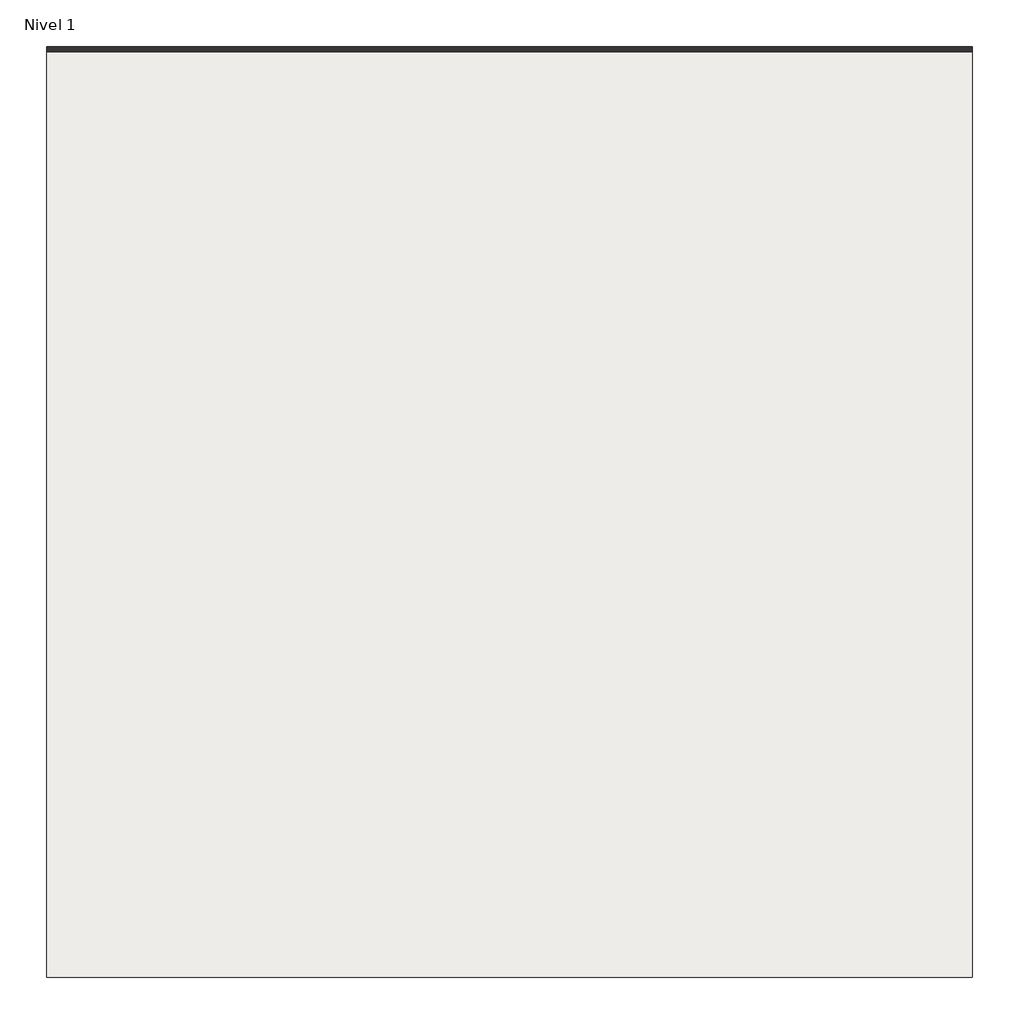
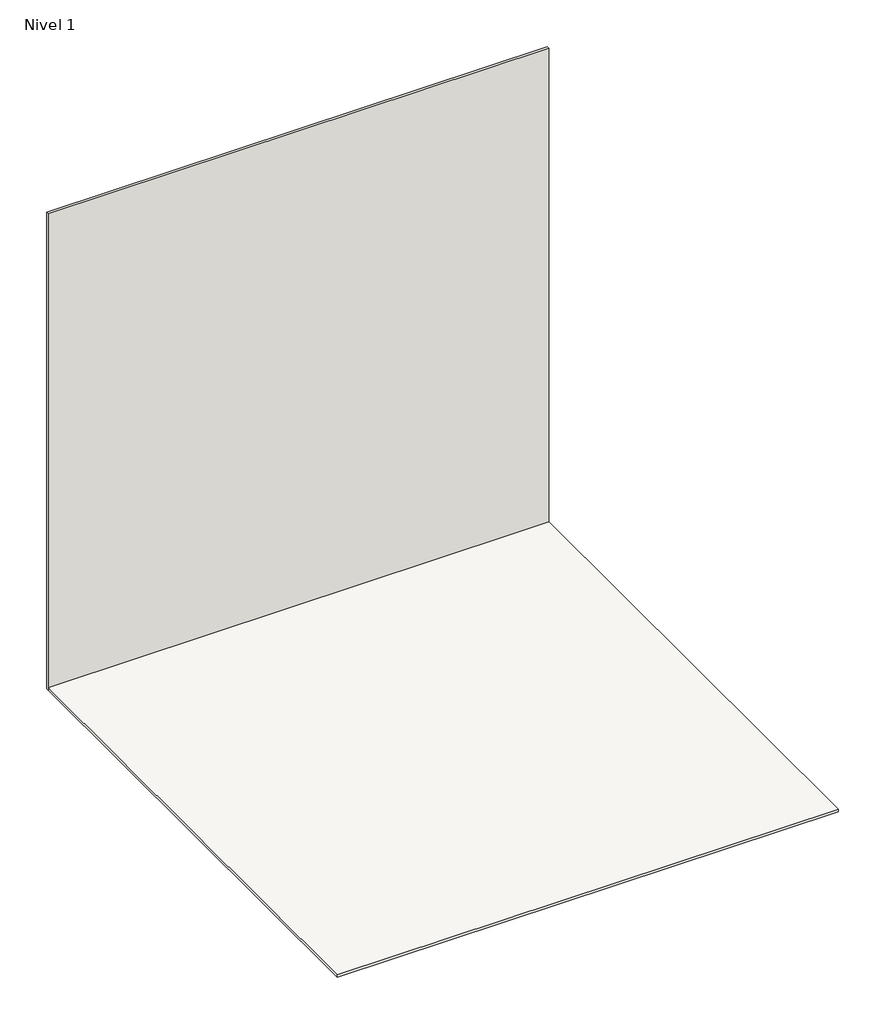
# One storey: 1 slab, 1 wall.
"""IFC4 building model written with IfcOpenShell, lengths in millimetres."""

from ifc_helpers import new_model, si_unit, frame, origin, place, context, project, spatial, polyline, outline, extrude, element, save

model = new_model("IFC4")

# Units and contexts
model_context = context("Model", 3, world=origin())
ifc_project = project(units=[si_unit("LENGTHUNIT", "METRE", prefix="MILLI")], contexts=[model_context])

# Site, building, storey
site = spatial("IfcSite", under=ifc_project)
building = spatial("IfcBuilding", under=site)
storey = spatial("IfcBuildingStorey", under=building, Name="Nivel 1", Elevation=0.0)

# Slab
placement = place(None, origin())
element("IfcSlab", 1, ObjectType="Grespania - Coverlam 1200x2600 Capraia", at=placement, inside=storey, context=model_context, shape_type="SweptSolid", body=[
    extrude(outline(polyline([(2344.0919037, 6894.6717724), (2344.0919037, 4094.6717724), (-455.9080963, 4094.6717724), (-455.9080963, 6894.6717724), (2344.0919037, 6894.6717724)])), frame((0.0, 0.0, -15.0), z_axis=(0.0, 0.0, 1.0), x_axis=(1.0, 0.0, 0.0)), (0.0, 0.0, 1.0), 15.0),
])

# Wall
element("IfcWall", 2, ObjectType="Grespania - Coverlam 1200x2600 Capraia", at=placement, inside=storey, context=model_context, shape_type="SweptSolid", body=[
    extrude(outline(polyline([(2344.0919037, 6894.6717724), (-455.9080963, 6894.6717724), (-455.9080963, 6909.6717724), (2344.0919037, 6909.6717724), (2344.0919037, 6894.6717724)])), frame((0.0, 0.0, -15.0), z_axis=(0.0, 0.0, 1.0), x_axis=(1.0, 0.0, 0.0)), (0.0, 0.0, 1.0), 2815.0),
])

save(model, "model.ifc")
